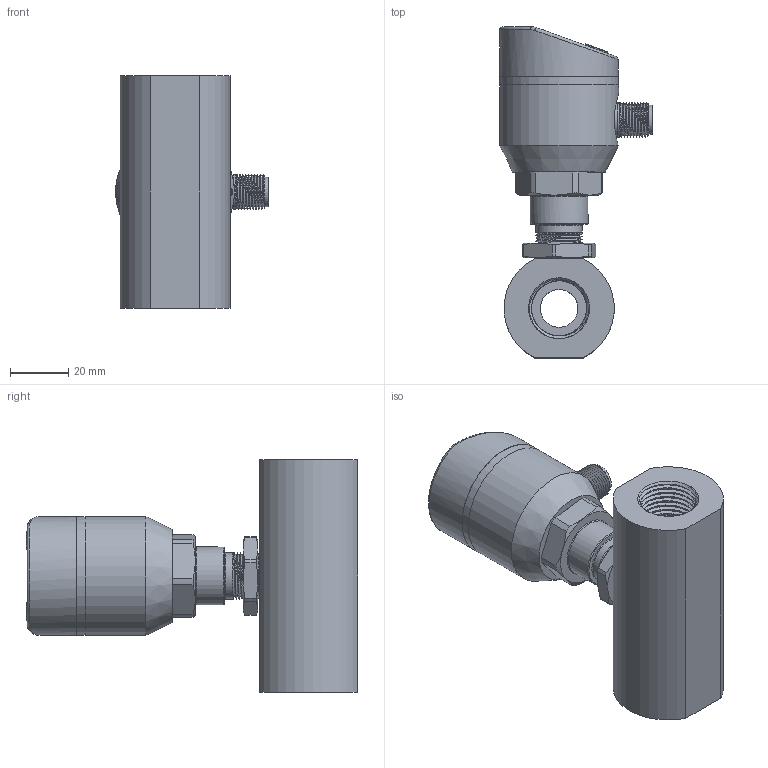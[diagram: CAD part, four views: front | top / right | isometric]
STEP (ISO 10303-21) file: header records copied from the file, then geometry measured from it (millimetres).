
FILE_DESCRIPTION( (''), '2;1');
FILE_NAME( 'QTKA_DN12_female-thread.step', '2024-01-11T15:05:00+08:00', (''), (''), '', '', '');
FILE_SCHEMA (('AUTOMOTIVE_DESIGN { 1 0 10303 214 3 1 1 1 }'));
Length unit declared in the file: millimetre
Products named in the file (1): QTKA DN12_female-thread
Bounding box: 52.7 x 114.3 x 80 mm (x, y, z)
Volume: 100836 mm3; surface area: 43343 mm2
Topology: 5 solids, 7 shells, 436 faces, 1052 edges, 667 vertices
Faces by surface type: plane 151, cylinder 143, cone 51, bspline 46, torus 39, sphere 6
Full cylindrical faces by diameter (mm): 1 x5, 2.7 x4, 8.4 x1, 9.7 x1, 9.8 x1, 10.1 x1, 11.6 x1, 12 x1, 13 x1, 15.9 x1, 17 x1, 20 x1, 21 x2, 23 x3, 26 x4, 26.1 x1, 37 x1, 41 x3
Entity records: 35712 total; most frequent: CARTESIAN_POINT 24750, DIRECTION 1912, ORIENTED_EDGE 1908, EDGE_CURVE 954, AXIS2_PLACEMENT_3D 766, VERTEX_POINT 626, EDGE_LOOP 532, ADVANCED_FACE 432
